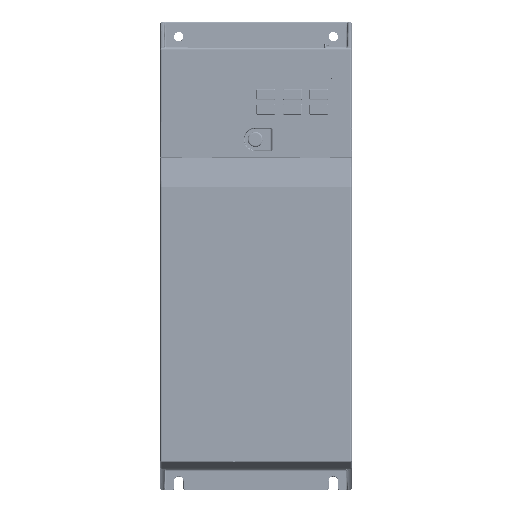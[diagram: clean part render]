
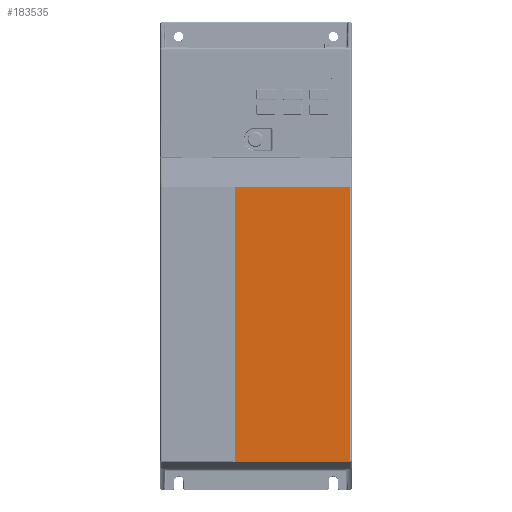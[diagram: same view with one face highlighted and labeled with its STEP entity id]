
A CAD part, top view. The second image highlights one B-rep face of the part: STEP entity #183535.
In plain terms, the highlighted planar face has unit normal (0, 0, 1).
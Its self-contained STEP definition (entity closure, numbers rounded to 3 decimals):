
#10593=FACE_OUTER_BOUND('',#20857,.T.);
#20857=EDGE_LOOP('',(#123403,#123404,#123405,#123406));
#34656=LINE('',#261440,#53918);
#34661=LINE('',#261453,#53923);
#34662=LINE('',#261455,#53924);
#34663=LINE('',#261456,#53925);
#53918=VECTOR('',#211993,185.811);
#53923=VECTOR('',#212004,78.5);
#53924=VECTOR('',#212005,185.811);
#53925=VECTOR('',#212006,78.5);
#77300=VERTEX_POINT('',#261435);
#77301=VERTEX_POINT('',#261439);
#77306=VERTEX_POINT('',#261452);
#77307=VERTEX_POINT('',#261454);
#95323=EDGE_CURVE('',#77300,#77301,#34656,.T.);
#95329=EDGE_CURVE('',#77300,#77306,#34661,.T.);
#95330=EDGE_CURVE('',#77306,#77307,#34662,.T.);
#95331=EDGE_CURVE('',#77307,#77301,#34663,.T.);
#123403=ORIENTED_EDGE('',*,*,#95323,.F.);
#123404=ORIENTED_EDGE('',*,*,#95329,.T.);
#123405=ORIENTED_EDGE('',*,*,#95330,.T.);
#123406=ORIENTED_EDGE('',*,*,#95331,.T.);
#176990=PLANE('',#196244);
#183535=ADVANCED_FACE('',(#10593),#176990,.T.);
#196244=AXIS2_PLACEMENT_3D('',#261451,#212002,#212003);
#211993=DIRECTION('',(0.,-1.,0.));
#212002=DIRECTION('center_axis',(0.,0.,1.));
#212003=DIRECTION('ref_axis',(0.,-1.,0.));
#212004=DIRECTION('',(-1.,0.,0.));
#212005=DIRECTION('',(0.,-1.,0.));
#212006=DIRECTION('',(1.,0.,0.));
#261435=CARTESIAN_POINT('',(64.,70.825,157.7));
#261439=CARTESIAN_POINT('',(64.,-114.985,157.7));
#261440=CARTESIAN_POINT('',(64.,70.825,157.7));
#261451=CARTESIAN_POINT('Origin',(65.,70.9,157.7));
#261452=CARTESIAN_POINT('',(-14.5,70.825,157.7));
#261453=CARTESIAN_POINT('',(64.,70.825,157.7));
#261454=CARTESIAN_POINT('',(-14.5,-114.985,157.7));
#261455=CARTESIAN_POINT('',(-14.5,70.825,157.7));
#261456=CARTESIAN_POINT('',(-14.5,-114.985,157.7));
